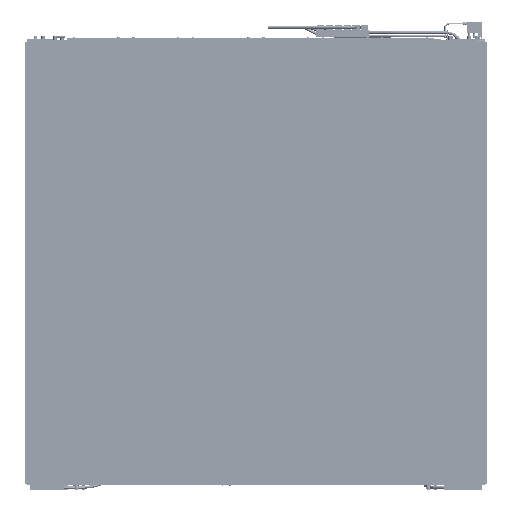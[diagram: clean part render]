
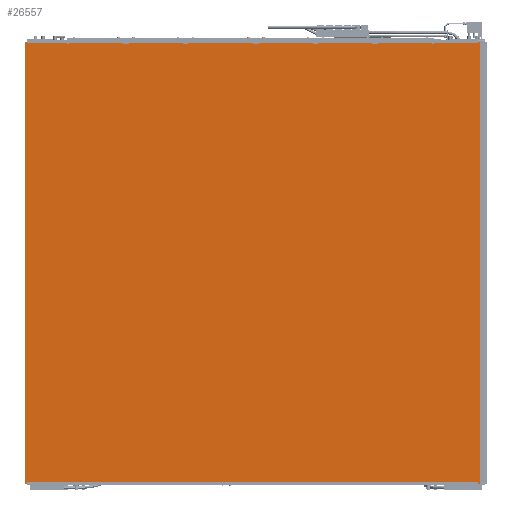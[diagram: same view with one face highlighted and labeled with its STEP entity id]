
A CAD part, front view. The second image highlights one B-rep face of the part: STEP entity #26557.
In plain terms, the highlighted planar face has unit normal (0, -1, 0).
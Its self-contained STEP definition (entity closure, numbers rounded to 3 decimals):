
#26557=ADVANCED_FACE('',(#40976),#34308,.F.);
#34308=PLANE('',#171343);
#40976=FACE_OUTER_BOUND('',#50857,.T.);
#50857=EDGE_LOOP('',(#75299,#75300,#75301,#75302));
#75299=ORIENTED_EDGE('',*,*,#124702,.T.);
#75300=ORIENTED_EDGE('',*,*,#124703,.T.);
#75301=ORIENTED_EDGE('',*,*,#124704,.T.);
#75302=ORIENTED_EDGE('',*,*,#124705,.T.);
#107736=VERTEX_POINT('',#253464);
#107737=VERTEX_POINT('',#253465);
#107738=VERTEX_POINT('',#253467);
#107739=VERTEX_POINT('',#253469);
#124702=EDGE_CURVE('',#107736,#107737,#143115,.T.);
#124703=EDGE_CURVE('',#107737,#107738,#143116,.T.);
#124704=EDGE_CURVE('',#107738,#107739,#143117,.T.);
#124705=EDGE_CURVE('',#107739,#107736,#143118,.T.);
#143115=LINE('',#253463,#156860);
#143116=LINE('',#253466,#156861);
#143117=LINE('',#253468,#156862);
#143118=LINE('',#253470,#156863);
#156860=VECTOR('',#197063,1.);
#156861=VECTOR('',#197064,1.);
#156862=VECTOR('',#197065,1.);
#156863=VECTOR('',#197066,1.);
#171343=AXIS2_PLACEMENT_3D('',#253471,#197067,#197068);
#197063=DIRECTION('',(-1.,0.,0.));
#197064=DIRECTION('',(0.,0.,-1.));
#197065=DIRECTION('',(1.,0.,0.));
#197066=DIRECTION('',(0.,0.,1.));
#197067=DIRECTION('',(0.,1.,0.));
#197068=DIRECTION('',(1.,0.,0.));
#253463=CARTESIAN_POINT('',(1387.7,-7364.25,-1428.518));
#253464=CARTESIAN_POINT('',(2672.7,-7364.25,-1428.518));
#253465=CARTESIAN_POINT('',(102.7,-7364.25,-1428.518));
#253466=CARTESIAN_POINT('',(102.7,-7364.25,-2676.518));
#253467=CARTESIAN_POINT('',(102.7,-7364.25,-3924.518));
#253468=CARTESIAN_POINT('',(1387.7,-7364.25,-3924.518));
#253469=CARTESIAN_POINT('',(2672.7,-7364.25,-3924.518));
#253470=CARTESIAN_POINT('',(2672.7,-7364.25,-2676.518));
#253471=CARTESIAN_POINT('',(102.7,-7364.25,-1428.518));
